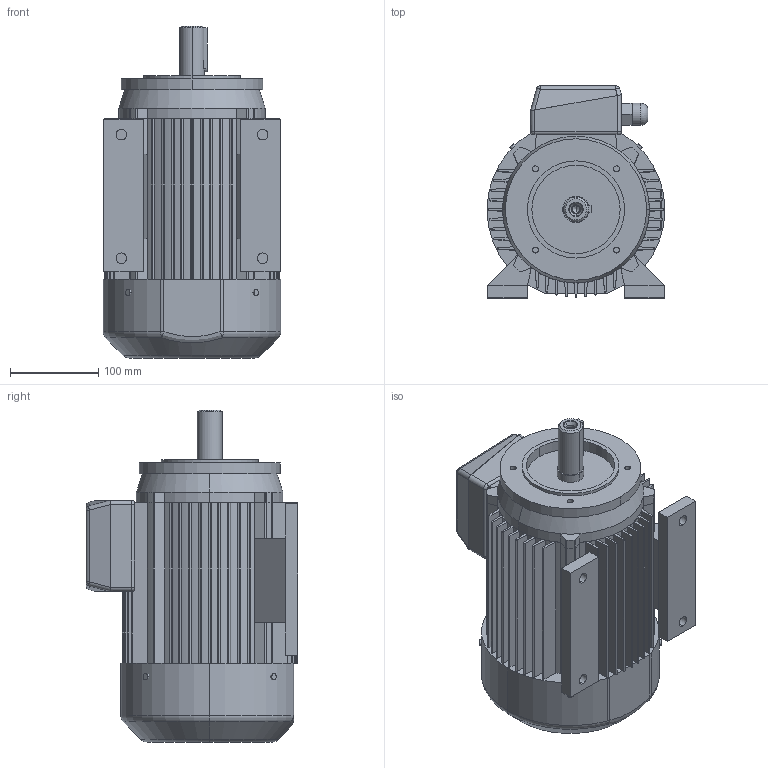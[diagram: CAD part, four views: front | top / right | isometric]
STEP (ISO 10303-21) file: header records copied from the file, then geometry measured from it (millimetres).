
FILE_DESCRIPTION (( 'STEP AP203' ), '1' );
FILE_NAME ('SLg 100L-B34-C2.STEP', '2010-04-14T08:39:05', ( 'INDUKTA' ), ( 'CANTONI MOTOR' ), 'SwSTEP 2.0', 'SolidWorks 2003064', '' );
FILE_SCHEMA (( 'CONFIG_CONTROL_DESIGN' ));
Length unit declared in the file: millimetre
Products named in the file (1): SLg 100L-B34-C2
Bounding box: 201.5 x 240 x 376 mm (x, y, z)
Volume: 8884281.4 mm3; surface area: 638299.5 mm2
Topology: 13 solids, 13 shells, 539 faces, 1421 edges, 918 vertices
Faces by surface type: plane 266, cylinder 199, bspline 43, cone 14, torus 11, sphere 6
Entity records: 20001 total; most frequent: CARTESIAN_POINT 6661, ORIENTED_EDGE 2826, DIRECTION 2697, EDGE_CURVE 1413, VERTEX_POINT 918, AXIS2_PLACEMENT_3D 908, LINE 881, VECTOR 881
